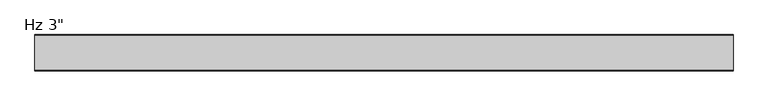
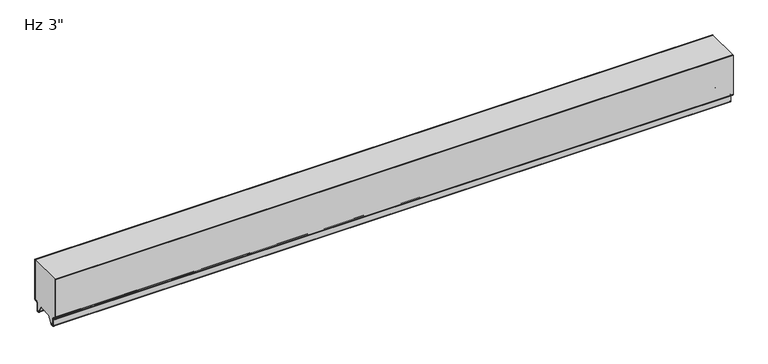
"""IFC4 building model written with IfcOpenShell, lengths in millimetres: plate geometry."""

from ifc_helpers import new_model, si_unit, frame, origin, place, context, project, spatial, polyline, circle_curve, source, transform, mapped, element, save
from ifc_brep_helpers import plane_surface, cylinder_surface, revolved_surface, advanced_brep


def plate_f03471cd(model_context):
    return source(origin(), model_context, "Body", "AdvancedBrep", [
        advanced_brep(
        [(-730.0, -2.9776189, 3.8501063), (-730.0, -1.0007088, 5.8270163), (-730.0, -1.0007088, 94.95), (-730.0, 0.0, 94.95), (-730.0, 0.0, 5.8272211), (-730.0, -2.977286, 2.8499526), (-730.0, -5.2691698, 2.8499526), (-730.0, -8.2464384, -0.1273159), (-730.0, -8.2464384, -15.7237419), (-730.0, -9.8343149, -17.3116185), (-730.0, -12.9058636, -17.3116185), (-730.0, -14.4937401, -15.7237419), (-730.0, -14.4937401, -13.3687064), (-730.0, -13.4937365, -13.3687064), (-730.0, -13.4937365, -15.7237374), (-730.0, -12.9058654, -16.3116086), (-730.0, -9.834334, -16.3116086), (-730.0, -9.2464768, -15.7237514), (-730.0, -9.2464768, -0.1272391), (-730.0, -5.2691315, 3.8501063), (730.0, -2.9776189, 3.8501063), (730.0, -5.2691315, 3.8501063), (730.0, -9.2464768, -0.1272391), (730.0, -9.2464768, -15.7237514), (730.0, -9.834334, -16.3116086), (730.0, -12.9058654, -16.3116086), (730.0, -13.4937365, -15.7237374), (730.0, -13.4937365, -13.3687064), (730.0, -14.4937401, -13.3687064), (730.0, -14.4937401, -15.7237419), (730.0, -12.9058636, -17.3116185), (730.0, -9.8343149, -17.3116185), (730.0, -8.2464384, -15.7237419), (730.0, -8.2464384, -0.1273159), (730.0, -5.2691698, 2.8499526), (730.0, -2.977286, 2.8499526), (730.0, -1.75e-05, 5.8272211), (730.0, 0.0, 94.95), (730.0, -1.0007088, 94.95), (730.0, -1.0007088, 5.8270163)],
        [
            (0, 1, circle_curve(frame((-730.0, -2.9776189, 5.8270163), z_axis=(1.0, 0.0, 0.0), x_axis=(0.0, 1.0, 0.0)), 1.9769101)),
            (1, 2),
            (2, 3),
            (3, 4),
            (4, 5, circle_curve(frame((-730.0, -2.977286, 5.8272211), z_axis=(-1.0, 0.0, 0.0), x_axis=(0.0, 1.0, 0.0)), 2.9772685)),
            (5, 6),
            (6, 7, circle_curve(frame((-730.0, -5.2691698, -0.1273159), z_axis=(1.0, 0.0, 0.0), x_axis=(0.0, 1.0, 0.0)), 2.9772685)),
            (7, 8),
            (8, 9, circle_curve(frame((-730.0, -9.8343149, -15.7237419), z_axis=(-1.0, 0.0, 0.0), x_axis=(0.0, 1.0, 0.0)), 1.5878765)),
            (9, 10),
            (10, 11, circle_curve(frame((-730.0, -12.9058636, -15.7237419), z_axis=(-1.0, 0.0, 0.0), x_axis=(0.0, 1.0, 0.0)), 1.5878765)),
            (11, 12),
            (12, 13),
            (13, 14),
            (14, 15, circle_curve(frame((-730.0, -12.9058654, -15.7237374), z_axis=(1.0, 0.0, 0.0), x_axis=(0.0, 1.0, 0.0)), 0.5878711)),
            (15, 16),
            (16, 17, circle_curve(frame((-730.0, -9.834334, -15.7237514), z_axis=(1.0, 0.0, 0.0), x_axis=(0.0, 1.0, 0.0)), 0.5878572)),
            (17, 18),
            (18, 19, circle_curve(frame((-730.0, -5.2691315, -0.1272391), z_axis=(-1.0, 0.0, 0.0), x_axis=(0.0, 1.0, 0.0)), 3.9773454)),
            (19, 0),
            (20, 21),
            (21, 22, circle_curve(frame((730.0, -5.2691315, -0.1272391), z_axis=(1.0, 0.0, 0.0), x_axis=(0.0, 1.0, 0.0)), 3.9773454)),
            (22, 23),
            (23, 24, circle_curve(frame((730.0, -9.834334, -15.7237514), z_axis=(-1.0, 0.0, 0.0), x_axis=(0.0, 1.0, 0.0)), 0.5878572)),
            (24, 25),
            (25, 26, circle_curve(frame((730.0, -12.9058654, -15.7237374), z_axis=(-1.0, 0.0, 0.0), x_axis=(0.0, 1.0, 0.0)), 0.5878711)),
            (26, 27),
            (27, 28),
            (28, 29),
            (29, 30, circle_curve(frame((730.0, -12.9058636, -15.7237419), z_axis=(1.0, 0.0, 0.0), x_axis=(0.0, 1.0, 0.0)), 1.5878765)),
            (30, 31),
            (31, 32, circle_curve(frame((730.0, -9.8343149, -15.7237419), z_axis=(1.0, 0.0, 0.0), x_axis=(0.0, 1.0, 0.0)), 1.5878765)),
            (32, 33),
            (33, 34, circle_curve(frame((730.0, -5.2691698, -0.1273159), z_axis=(-1.0, 0.0, 0.0), x_axis=(0.0, 1.0, 0.0)), 2.9772685)),
            (34, 35),
            (35, 36, circle_curve(frame((730.0, -2.977286, 5.8272211), z_axis=(1.0, 0.0, 0.0), x_axis=(0.0, 1.0, 0.0)), 2.9772685)),
            (36, 37),
            (37, 38),
            (38, 39),
            (39, 20, circle_curve(frame((730.0, -2.9776189, 5.8270163), z_axis=(-1.0, 0.0, 0.0), x_axis=(0.0, 1.0, 0.0)), 1.9769101)),
            (2, 38),
            (37, 3),
            (19, 21),
            (20, 0),
            (18, 22),
            (17, 23),
            (16, 24),
            (15, 25),
            (14, 26),
            (13, 27),
            (12, 28),
            (11, 29),
            (10, 30),
            (9, 31),
            (8, 32),
            (7, 33),
            (6, 34),
            (5, 35),
            (4, 36),
            (1, 39),
        ],
        [
            plane_surface(frame((-730.0, 0.0, 576.2625), z_axis=(-1.0, 0.0, 0.0), x_axis=(0.0, 1.0, 0.0))),
            plane_surface(frame((730.0, 0.0, 576.2625), z_axis=(1.0, 0.0, 0.0), x_axis=(0.0, 1.0, 0.0))),
            plane_surface(frame((730.0, 10.0, 94.95), z_axis=(0.0, 0.0, 1.0), x_axis=(-1.0, 0.0, 0.0))),
            plane_surface(frame((-730.0, -2.9776189, 3.8501063), z_axis=(0.0, 0.0, 1.0), x_axis=(1.0, 0.0, 0.0))),
            cylinder_surface(frame((-730.0, -5.2691315, -0.1272391), z_axis=(-1.0, 0.0, 0.0), x_axis=(0.0, 1.0, 0.0)), 3.9773454),
            plane_surface(frame((-730.0, -9.2464768, -0.1272391), z_axis=(0.0, -1.0, 0.0), x_axis=(1.0, 0.0, 0.0))),
            revolved_surface(polyline([(730.0, -9.2464768, -15.7237514), (-730.0, -9.2464768, -15.7237514)]), (-730.0, -9.834334, -15.7237514), (1.0, 0.0, 0.0)),
            plane_surface(frame((-730.0, -9.834334, -16.3116086), z_axis=(0.0, 0.0, 1.0), x_axis=(1.0, 0.0, 0.0))),
            revolved_surface(polyline([(730.0, -12.3179943, -15.7237374), (-730.0, -12.3179943, -15.7237374)]), (-730.0, -12.9058654, -15.7237374), (1.0, 0.0, 0.0)),
            plane_surface(frame((-730.0, -13.4937365, -15.7237374), z_axis=(0.0, 1.0, 0.0), x_axis=(1.0, 0.0, 0.0))),
            plane_surface(frame((-730.0, -13.4937365, -13.3687064), z_axis=(0.0, 0.0, 1.0), x_axis=(1.0, 0.0, 0.0))),
            plane_surface(frame((-730.0, -14.4937401, -13.3687064), z_axis=(0.0, -1.0, 0.0), x_axis=(1.0, 0.0, 0.0))),
            cylinder_surface(frame((-730.0, -12.9058636, -15.7237419), z_axis=(-1.0, 0.0, 0.0), x_axis=(0.0, 1.0, 0.0)), 1.5878765),
            plane_surface(frame((-730.0, -12.9058636, -17.3116185), z_axis=(0.0, 0.0, -1.0), x_axis=(1.0, 0.0, 0.0))),
            cylinder_surface(frame((-730.0, -9.8343149, -15.7237419), z_axis=(-1.0, 0.0, 0.0), x_axis=(0.0, 1.0, 0.0)), 1.5878765),
            plane_surface(frame((-730.0, -8.2464384, -15.7237419), z_axis=(0.0, 1.0, 0.0), x_axis=(1.0, 0.0, 0.0))),
            revolved_surface(polyline([(730.0, -2.2919013, -0.1273159), (-730.0, -2.2919013, -0.1273159)]), (-730.0, -5.2691698, -0.1273159), (1.0, 0.0, 0.0)),
            plane_surface(frame((-730.0, -5.2691698, 2.8499526), z_axis=(0.0, 0.0, -1.0), x_axis=(1.0, 0.0, 0.0))),
            cylinder_surface(frame((-730.0, -2.977286, 5.8272211), z_axis=(-1.0, 0.0, 0.0), x_axis=(0.0, 1.0, 0.0)), 2.9772685),
            plane_surface(frame((-730.0, 0.0, 5.8272211), z_axis=(0.0, 1.0, 0.0), x_axis=(1.0, 0.0, 0.0))),
            plane_surface(frame((-730.0, -1.0007088, 1150.812837), z_axis=(0.0, -1.0, 0.0), x_axis=(1.0, 0.0, 0.0))),
            revolved_surface(polyline([(730.0, -1.0007088, 5.8270163), (-730.0, -1.0007088, 5.8270163)]), (-730.0, -2.9776189, 5.8270163), (1.0, 0.0, 0.0)),
        ],
        [
            (0, [[1, 2, 3, 4, 5, 6, 7, 8, 9, 10, 11, 12, 13, 14, 15, 16, 17, 18, 19, 20]]),
            (1, [[21, 22, 23, 24, 25, 26, 27, 28, 29, 30, 31, 32, 33, 34, 35, 36, 37, 38, 39, 40]]),
            (2, [[41, -38, 42, -3]]),
            (3, [[43, -21, 44, -20]]),
            (4, [[45, -22, -43, -19]]),
            (5, [[46, -23, -45, -18]]),
            (6, [[47, -24, -46, -17]]),
            (7, [[48, -25, -47, -16]]),
            (8, [[49, -26, -48, -15]]),
            (9, [[50, -27, -49, -14]]),
            (10, [[51, -28, -50, -13]]),
            (11, [[52, -29, -51, -12]]),
            (12, [[53, -30, -52, -11]]),
            (13, [[54, -31, -53, -10]]),
            (14, [[55, -32, -54, -9]]),
            (15, [[56, -33, -55, -8]]),
            (16, [[57, -34, -56, -7]]),
            (17, [[58, -35, -57, -6]]),
            (18, [[59, -36, -58, -5]]),
            (19, [[-4, -42, -37, -59]]),
            (20, [[-39, -41, -2, 60]]),
            (21, [[-44, -40, -60, -1]]),
        ],
    ),
        advanced_brep(
        [(-730.0, -73.2223811, 3.8501063), (-730.0, -70.9308685, 3.8501063), (-730.0, -66.9535232, -0.1272391), (-730.0, -66.9535232, -15.7237514), (-730.0, -66.365666, -16.3116086), (-730.0, -63.2941346, -16.3116086), (-730.0, -62.7062635, -15.7237374), (-730.0, -62.7062635, -13.3687064), (-730.0, -61.7062599, -13.3687064), (-730.0, -61.7062599, -15.7237419), (-730.0, -63.2941364, -17.3116185), (-730.0, -66.3656851, -17.3116185), (-730.0, -67.9535616, -15.7237419), (-730.0, -67.9535616, -0.1273159), (-730.0, -70.9308302, 2.8499526), (-730.0, -73.222714, 2.8499526), (-730.0, -76.1999825, 5.8272211), (-730.0, -76.2, 94.95), (-730.0, -75.1992912, 94.95), (-730.0, -75.1992912, 5.8270163), (730.0, -73.2223811, 3.8501063), (730.0, -75.1992912, 5.8270163), (730.0, -75.1992912, 94.95), (730.0, -76.2, 94.95), (730.0, -76.2, 5.8272211), (730.0, -73.222714, 2.8499526), (730.0, -70.9308302, 2.8499526), (730.0, -67.9535616, -0.1273159), (730.0, -67.9535616, -15.7237419), (730.0, -66.3656851, -17.3116185), (730.0, -63.2941364, -17.3116185), (730.0, -61.7062599, -15.7237419), (730.0, -61.7062599, -13.3687064), (730.0, -62.7062635, -13.3687064), (730.0, -62.7062635, -15.7237374), (730.0, -63.2941346, -16.3116086), (730.0, -66.365666, -16.3116086), (730.0, -66.9535232, -15.7237514), (730.0, -66.9535232, -0.1272391), (730.0, -70.9308685, 3.8501063)],
        [
            (0, 1),
            (1, 2, circle_curve(frame((-730.0, -70.9308685, -0.1272391), z_axis=(-1.0, 0.0, 0.0), x_axis=(0.0, 0.0, -1.0)), 3.9773454)),
            (2, 3),
            (3, 4, circle_curve(frame((-730.0, -66.365666, -15.7237514), z_axis=(1.0, 0.0, 0.0), x_axis=(0.0, 0.0, -1.0)), 0.5878572)),
            (4, 5),
            (5, 6, circle_curve(frame((-730.0, -63.2941346, -15.7237374), z_axis=(1.0, 0.0, 0.0), x_axis=(0.0, 0.0, -1.0)), 0.5878711)),
            (6, 7),
            (7, 8),
            (8, 9),
            (9, 10, circle_curve(frame((-730.0, -63.2941364, -15.7237419), z_axis=(-1.0, 0.0, 0.0), x_axis=(0.0, 0.0, -1.0)), 1.5878765)),
            (10, 11),
            (11, 12, circle_curve(frame((-730.0, -66.3656851, -15.7237419), z_axis=(-1.0, 0.0, 0.0), x_axis=(0.0, 0.0, -1.0)), 1.5878765)),
            (12, 13),
            (13, 14, circle_curve(frame((-730.0, -70.9308302, -0.1273159), z_axis=(1.0, 0.0, 0.0), x_axis=(0.0, 0.0, -1.0)), 2.9772685)),
            (14, 15),
            (15, 16, circle_curve(frame((-730.0, -73.222714, 5.8272211), z_axis=(-1.0, 0.0, 0.0), x_axis=(0.0, 0.0, -1.0)), 2.9772685)),
            (16, 17),
            (17, 18),
            (18, 19),
            (19, 0, circle_curve(frame((-730.0, -73.2223811, 5.8270163), z_axis=(1.0, 0.0, 0.0), x_axis=(0.0, 0.0, -1.0)), 1.9769101)),
            (20, 21, circle_curve(frame((730.0, -73.2223811, 5.8270163), z_axis=(-1.0, 0.0, 0.0), x_axis=(0.0, 0.0, -1.0)), 1.9769101)),
            (21, 22),
            (22, 23),
            (23, 24),
            (24, 25, circle_curve(frame((730.0, -73.222714, 5.8272211), z_axis=(1.0, 0.0, 0.0), x_axis=(0.0, 0.0, -1.0)), 2.9772685)),
            (25, 26),
            (26, 27, circle_curve(frame((730.0, -70.9308302, -0.1273159), z_axis=(-1.0, 0.0, 0.0), x_axis=(0.0, 0.0, -1.0)), 2.9772685)),
            (27, 28),
            (28, 29, circle_curve(frame((730.0, -66.3656851, -15.7237419), z_axis=(1.0, 0.0, 0.0), x_axis=(0.0, 0.0, -1.0)), 1.5878765)),
            (29, 30),
            (30, 31, circle_curve(frame((730.0, -63.2941364, -15.7237419), z_axis=(1.0, 0.0, 0.0), x_axis=(0.0, 0.0, -1.0)), 1.5878765)),
            (31, 32),
            (32, 33),
            (33, 34),
            (34, 35, circle_curve(frame((730.0, -63.2941346, -15.7237374), z_axis=(-1.0, 0.0, 0.0), x_axis=(0.0, 0.0, -1.0)), 0.5878711)),
            (35, 36),
            (36, 37, circle_curve(frame((730.0, -66.365666, -15.7237514), z_axis=(-1.0, 0.0, 0.0), x_axis=(0.0, 0.0, -1.0)), 0.5878572)),
            (37, 38),
            (38, 39, circle_curve(frame((730.0, -70.9308685, -0.1272391), z_axis=(1.0, 0.0, 0.0), x_axis=(0.0, 0.0, -1.0)), 3.9773454)),
            (39, 20),
            (17, 23),
            (22, 18),
            (19, 21),
            (20, 0),
            (16, 24),
            (15, 25),
            (14, 26),
            (13, 27),
            (12, 28),
            (11, 29),
            (10, 30),
            (9, 31),
            (8, 32),
            (7, 33),
            (6, 34),
            (5, 35),
            (4, 36),
            (3, 37),
            (2, 38),
            (1, 39),
        ],
        [
            plane_surface(frame((-730.0, -76.2, 576.2625), z_axis=(-1.0, 0.0, 0.0), x_axis=(0.0, -1.0, 0.0))),
            plane_surface(frame((730.0, -76.2, 576.2625), z_axis=(1.0, 0.0, 0.0), x_axis=(0.0, -1.0, 0.0))),
            plane_surface(frame((730.0, 10.0, 94.95), z_axis=(0.0, 0.0, 1.0), x_axis=(-1.0, 0.0, 0.0))),
            revolved_surface(polyline([(730.0, -73.2223811, 3.8501062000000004), (-730.0, -73.2223811, 3.8501062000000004)]), (-730.0, -73.2223811, 5.8270163), (1.0, 0.0, 0.0)),
            plane_surface(frame((-730.0, -75.1992912, 5.8270163), z_axis=(0.0, 1.0, 0.0), x_axis=(1.0, 0.0, 0.0))),
            plane_surface(frame((-730.0, -76.2, 1150.8100652), z_axis=(0.0, -1.0, 0.0), x_axis=(1.0, 0.0, 0.0))),
            cylinder_surface(frame((-730.0, -73.222714, 5.8272211), z_axis=(-1.0, 0.0, 0.0), x_axis=(0.0, 0.0, -1.0)), 2.9772685),
            plane_surface(frame((-730.0, -73.222714, 2.8499526), z_axis=(0.0, 0.0, -1.0), x_axis=(1.0, 0.0, 0.0))),
            revolved_surface(polyline([(730.0, -70.9308302, -3.1045844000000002), (-730.0, -70.9308302, -3.1045844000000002)]), (-730.0, -70.9308302, -0.1273159), (1.0, 0.0, 0.0)),
            plane_surface(frame((-730.0, -67.9535616, -0.1273159), z_axis=(0.0, -1.0, 0.0), x_axis=(1.0, 0.0, 0.0))),
            cylinder_surface(frame((-730.0, -66.3656851, -15.7237419), z_axis=(-1.0, 0.0, 0.0), x_axis=(0.0, 0.0, -1.0)), 1.5878765),
            plane_surface(frame((-730.0, -66.3656851, -17.3116185), z_axis=(0.0, 0.0, -1.0), x_axis=(1.0, 0.0, 0.0))),
            cylinder_surface(frame((-730.0, -63.2941364, -15.7237419), z_axis=(-1.0, 0.0, 0.0), x_axis=(0.0, 0.0, -1.0)), 1.5878765),
            plane_surface(frame((-730.0, -61.7062599, -15.7237419), z_axis=(0.0, 1.0, 0.0), x_axis=(1.0, 0.0, 0.0))),
            plane_surface(frame((-730.0, -61.7062599, -13.3687064), z_axis=(0.0, 0.0, 1.0), x_axis=(1.0, 0.0, 0.0))),
            plane_surface(frame((-730.0, -62.7062635, -13.3687064), z_axis=(0.0, -1.0, 0.0), x_axis=(1.0, 0.0, 0.0))),
            revolved_surface(polyline([(730.0, -63.2941346, -16.3116085), (-730.0, -63.2941346, -16.3116085)]), (-730.0, -63.2941346, -15.7237374), (1.0, 0.0, 0.0)),
            plane_surface(frame((-730.0, -63.2941346, -16.3116086), z_axis=(0.0, 0.0, 1.0), x_axis=(1.0, 0.0, 0.0))),
            revolved_surface(polyline([(730.0, -66.365666, -16.3116086), (-730.0, -66.365666, -16.3116086)]), (-730.0, -66.365666, -15.7237514), (1.0, 0.0, 0.0)),
            plane_surface(frame((-730.0, -66.9535232, -15.7237514), z_axis=(0.0, 1.0, 0.0), x_axis=(1.0, 0.0, 0.0))),
            cylinder_surface(frame((-730.0, -70.9308685, -0.1272391), z_axis=(-1.0, 0.0, 0.0), x_axis=(0.0, 0.0, -1.0)), 3.9773454),
            plane_surface(frame((-730.0, -70.9308685, 3.8501063), z_axis=(0.0, 0.0, 1.0), x_axis=(1.0, 0.0, 0.0))),
        ],
        [
            (0, [[1, 2, 3, 4, 5, 6, 7, 8, 9, 10, 11, 12, 13, 14, 15, 16, 17, 18, 19, 20]]),
            (1, [[21, 22, 23, 24, 25, 26, 27, 28, 29, 30, 31, 32, 33, 34, 35, 36, 37, 38, 39, 40]]),
            (2, [[41, -23, 42, -18]]),
            (3, [[43, -21, 44, -20]]),
            (4, [[-19, -42, -22, -43]]),
            (5, [[-24, -41, -17, 45]]),
            (6, [[46, -25, -45, -16]]),
            (7, [[47, -26, -46, -15]]),
            (8, [[48, -27, -47, -14]]),
            (9, [[49, -28, -48, -13]]),
            (10, [[50, -29, -49, -12]]),
            (11, [[51, -30, -50, -11]]),
            (12, [[52, -31, -51, -10]]),
            (13, [[53, -32, -52, -9]]),
            (14, [[54, -33, -53, -8]]),
            (15, [[55, -34, -54, -7]]),
            (16, [[56, -35, -55, -6]]),
            (17, [[57, -36, -56, -5]]),
            (18, [[58, -37, -57, -4]]),
            (19, [[59, -38, -58, -3]]),
            (20, [[60, -39, -59, -2]]),
            (21, [[-44, -40, -60, -1]]),
        ],
    ),
        advanced_brep(
        [(-730.0, -73.2227194, 3.8499499), (-730.0, -75.1999935, 5.8272239), (-730.0, -75.2, 94.95), (-730.0, -1.0, 94.95), (-730.0, -1.0, 5.8272239), (-730.0, -2.9772806, 3.8499499), (-730.0, -5.2691705, 3.8499499), (-730.0, -9.2464377, -0.1273173), (-730.0, -9.2464377, -15.7237417), (-730.0, -9.8343146, -16.3116186), (-730.0, -12.9058635, -16.3116186), (-730.0, -13.4937402, -15.723742), (-730.0, -13.4937402, -13.3687064), (-730.0, -14.4937402, -13.3687064), (-730.0, -14.4937402, -15.6582851), (-730.0, -23.7509135, 0.0), (-730.0, -52.4490865, 0.0), (-730.0, -61.7062598, -15.6582851), (-730.0, -61.7062598, -13.3687064), (-730.0, -62.7062598, -13.3687064), (-730.0, -62.7062598, -15.723742), (-730.0, -63.2941365, -16.3116186), (-730.0, -66.3656854, -16.3116186), (-730.0, -66.9535623, -15.7237417), (-730.0, -66.9535623, -0.1273173), (-730.0, -70.9308295, 3.8499499), (730.0, -73.2227194, 3.8499499), (730.0, -70.9308295, 3.8499499), (730.0, -66.9535623, -0.1273173), (730.0, -66.9535623, -15.7237417), (730.0, -66.3656854, -16.3116186), (730.0, -63.2941365, -16.3116186), (730.0, -62.7062598, -15.723742), (730.0, -62.7062598, -13.3687064), (730.0, -61.7062598, -13.3687064), (730.0, -61.7062598, -15.6582851), (730.0, -52.4490865, 0.0), (730.0, -23.7509179, 0.0), (730.0, -14.4937402, -15.6582851), (730.0, -14.4937402, -13.3687064), (730.0, -13.4937402, -13.3687064), (730.0, -13.4937402, -15.723742), (730.0, -12.9058635, -16.3116186), (730.0, -9.8343146, -16.3116186), (730.0, -9.2464377, -15.7237417), (730.0, -9.2464377, -0.1273173), (730.0, -5.2691705, 3.8499499), (730.0, -2.9772806, 3.8499499), (730.0, -1.0000065, 5.8272239), (730.0, -1.0, 94.95), (730.0, -75.2, 94.95), (730.0, -75.2, 5.8272239)],
        [
            (0, 1, circle_curve(frame((-730.0, -73.2227194, 5.8272239), z_axis=(-1.0, 0.0, 0.0), x_axis=(0.0, 0.0, -1.0)), 1.977274)),
            (1, 2),
            (2, 3),
            (3, 4),
            (4, 5, circle_curve(frame((-730.0, -2.9772806, 5.8272239), z_axis=(-1.0, 0.0, 0.0), x_axis=(0.0, 1.0, 0.0)), 1.977274)),
            (5, 6),
            (6, 7, circle_curve(frame((-730.0, -5.2691705, -0.1273173), z_axis=(1.0, 0.0, 0.0), x_axis=(0.0, 1.0, 0.0)), 3.9772671)),
            (7, 8),
            (8, 9, circle_curve(frame((-730.0, -9.8343146, -15.7237417), z_axis=(-1.0, 0.0, 0.0), x_axis=(0.0, 1.0, 0.0)), 0.5878769)),
            (9, 10),
            (10, 11, circle_curve(frame((-730.0, -12.9058635, -15.723742), z_axis=(-1.0, 0.0, 0.0), x_axis=(0.0, 1.0, 0.0)), 0.5878766)),
            (11, 12),
            (12, 13),
            (13, 14),
            (14, 15),
            (15, 16),
            (16, 17),
            (17, 18),
            (18, 19),
            (19, 20),
            (20, 21, circle_curve(frame((-730.0, -63.2941365, -15.723742), z_axis=(-1.0, 0.0, 0.0), x_axis=(0.0, 0.0, -1.0)), 0.5878766)),
            (21, 22),
            (22, 23, circle_curve(frame((-730.0, -66.3656854, -15.7237417), z_axis=(-1.0, 0.0, 0.0), x_axis=(0.0, 0.0, -1.0)), 0.5878769)),
            (23, 24),
            (24, 25, circle_curve(frame((-730.0, -70.9308295, -0.1273173), z_axis=(1.0, 0.0, 0.0), x_axis=(0.0, 0.0, -1.0)), 3.9772671)),
            (25, 0),
            (26, 27),
            (27, 28, circle_curve(frame((730.0, -70.9308295, -0.1273173), z_axis=(-1.0, 0.0, 0.0), x_axis=(0.0, 0.0, -1.0)), 3.9772671)),
            (28, 29),
            (29, 30, circle_curve(frame((730.0, -66.3656854, -15.7237417), z_axis=(1.0, 0.0, 0.0), x_axis=(0.0, 0.0, -1.0)), 0.5878769)),
            (30, 31),
            (31, 32, circle_curve(frame((730.0, -63.2941365, -15.723742), z_axis=(1.0, 0.0, 0.0), x_axis=(0.0, 0.0, -1.0)), 0.5878766)),
            (32, 33),
            (33, 34),
            (34, 35),
            (35, 36),
            (36, 37),
            (37, 38),
            (38, 39),
            (39, 40),
            (40, 41),
            (41, 42, circle_curve(frame((730.0, -12.9058635, -15.723742), z_axis=(1.0, 0.0, 0.0), x_axis=(0.0, 1.0, 0.0)), 0.5878766)),
            (42, 43),
            (43, 44, circle_curve(frame((730.0, -9.8343146, -15.7237417), z_axis=(1.0, 0.0, 0.0), x_axis=(0.0, 1.0, 0.0)), 0.5878769)),
            (44, 45),
            (45, 46, circle_curve(frame((730.0, -5.2691705, -0.1273173), z_axis=(-1.0, 0.0, 0.0), x_axis=(0.0, 1.0, 0.0)), 3.9772671)),
            (46, 47),
            (47, 48, circle_curve(frame((730.0, -2.9772806, 5.8272239), z_axis=(1.0, 0.0, 0.0), x_axis=(0.0, 1.0, 0.0)), 1.977274)),
            (48, 49),
            (49, 50),
            (50, 51),
            (51, 26, circle_curve(frame((730.0, -73.2227194, 5.8272239), z_axis=(1.0, 0.0, 0.0), x_axis=(0.0, 0.0, -1.0)), 1.977274)),
            (36, 16),
            (15, 37),
            (2, 50),
            (49, 3),
            (25, 27),
            (26, 0),
            (24, 28),
            (23, 29),
            (22, 30),
            (21, 31),
            (20, 32),
            (19, 33),
            (18, 34),
            (17, 35),
            (1, 51),
            (4, 48),
            (47, 5),
            (14, 38),
            (13, 39),
            (12, 40),
            (11, 41),
            (10, 42),
            (9, 43),
            (8, 44),
            (7, 45),
            (6, 46),
        ],
        [
            plane_surface(frame((-730.0, -75.2, 576.2625), z_axis=(-1.0, 0.0, 0.0), x_axis=(0.0, -1.0, 0.0))),
            plane_surface(frame((730.0, -75.2, 576.2625), z_axis=(1.0, 0.0, 0.0), x_axis=(0.0, -1.0, 0.0))),
            plane_surface(frame((-730.0, -52.4490865, 0.0), z_axis=(0.0, 0.0, -1.0), x_axis=(1.0, 0.0, 0.0))),
            plane_surface(frame((730.0, 10.0, 94.95), z_axis=(0.0, 0.0, 1.0), x_axis=(-1.0, 0.0, 0.0))),
            plane_surface(frame((-730.0, -73.2227194, 3.8499499), z_axis=(0.0, 0.0, -1.0), x_axis=(1.0, 0.0, 0.0))),
            revolved_surface(polyline([(730.0, -70.9308295, -4.1045844), (-730.0, -70.9308295, -4.1045844)]), (-730.0, -70.9308295, -0.1273173), (1.0, 0.0, 0.0)),
            plane_surface(frame((-730.0, -66.9535623, -0.1273173), z_axis=(0.0, -1.0, 0.0), x_axis=(1.0, 0.0, 0.0))),
            cylinder_surface(frame((-730.0, -66.3656854, -15.7237417), z_axis=(-1.0, 0.0, 0.0), x_axis=(0.0, 0.0, -1.0)), 0.5878769),
            plane_surface(frame((-730.0, -66.3656854, -16.3116186), z_axis=(0.0, 0.0, -1.0), x_axis=(1.0, 0.0, 0.0))),
            cylinder_surface(frame((-730.0, -63.2941365, -15.723742), z_axis=(-1.0, 0.0, 0.0), x_axis=(0.0, 0.0, -1.0)), 0.5878766),
            plane_surface(frame((-730.0, -62.7062598, -15.723742), z_axis=(0.0, 1.0, 0.0), x_axis=(1.0, 0.0, 0.0))),
            plane_surface(frame((-730.0, -62.7062598, -13.3687064), z_axis=(0.0, 0.0, -1.0), x_axis=(1.0, 0.0, 0.0))),
            plane_surface(frame((-730.0, -61.7062598, -13.3687064), z_axis=(0.0, -1.0, 0.0), x_axis=(1.0, 0.0, 0.0))),
            plane_surface(frame((-730.0, -61.7062598, -15.6582851), z_axis=(0.0, 0.8608169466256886, -0.5089147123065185), x_axis=(1.0, 0.0, 0.0))),
            plane_surface(frame((-730.0, -75.2, 1150.8100652), z_axis=(0.0, -1.0, 0.0), x_axis=(1.0, 0.0, 0.0))),
            cylinder_surface(frame((-730.0, -73.2227194, 5.8272239), z_axis=(-1.0, 0.0, 0.0), x_axis=(0.0, 0.0, -1.0)), 1.977274),
            cylinder_surface(frame((-730.0, -2.9772806, 5.8272239), z_axis=(-1.0, 0.0, 0.0), x_axis=(0.0, 1.0, 0.0)), 1.977274),
            plane_surface(frame((-730.0, -1.0, 5.8272239), z_axis=(0.0, 1.0, 0.0), x_axis=(1.0, 0.0, 0.0))),
            plane_surface(frame((-730.0, -23.7509135, 0.0), z_axis=(0.0, -0.8608169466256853, -0.5089147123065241), x_axis=(1.0, 0.0, 0.0))),
            plane_surface(frame((-730.0, -14.4937402, -15.6582851), z_axis=(0.0, 1.0, 0.0), x_axis=(1.0, 0.0, 0.0))),
            plane_surface(frame((-730.0, -14.4937402, -13.3687064), z_axis=(0.0, 0.0, -1.0), x_axis=(1.0, 0.0, 0.0))),
            plane_surface(frame((-730.0, -13.4937402, -13.3687064), z_axis=(0.0, -1.0, 0.0), x_axis=(1.0, 0.0, 0.0))),
            cylinder_surface(frame((-730.0, -12.9058635, -15.723742), z_axis=(-1.0, 0.0, 0.0), x_axis=(0.0, 1.0, 0.0)), 0.5878766),
            plane_surface(frame((-730.0, -12.9058635, -16.3116186), z_axis=(0.0, 0.0, -1.0), x_axis=(1.0, 0.0, 0.0))),
            cylinder_surface(frame((-730.0, -9.8343146, -15.7237417), z_axis=(-1.0, 0.0, 0.0), x_axis=(0.0, 1.0, 0.0)), 0.5878769),
            plane_surface(frame((-730.0, -9.2464377, -15.7237417), z_axis=(0.0, 1.0, 0.0), x_axis=(1.0, 0.0, 0.0))),
            revolved_surface(polyline([(730.0, -1.2919034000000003, -0.1273173), (-730.0, -1.2919034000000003, -0.1273173)]), (-730.0, -5.2691705, -0.1273173), (1.0, 0.0, 0.0)),
            plane_surface(frame((-730.0, -5.2691705, 3.8499499), z_axis=(0.0, 0.0, -1.0), x_axis=(1.0, 0.0, 0.0))),
        ],
        [
            (0, [[1, 2, 3, 4, 5, 6, 7, 8, 9, 10, 11, 12, 13, 14, 15, 16, 17, 18, 19, 20, 21, 22, 23, 24, 25, 26]]),
            (1, [[27, 28, 29, 30, 31, 32, 33, 34, 35, 36, 37, 38, 39, 40, 41, 42, 43, 44, 45, 46, 47, 48, 49, 50, 51, 52]]),
            (2, [[53, -16, 54, -37]]),
            (3, [[55, -50, 56, -3]]),
            (4, [[57, -27, 58, -26]]),
            (5, [[59, -28, -57, -25]]),
            (6, [[60, -29, -59, -24]]),
            (7, [[61, -30, -60, -23]]),
            (8, [[62, -31, -61, -22]]),
            (9, [[63, -32, -62, -21]]),
            (10, [[64, -33, -63, -20]]),
            (11, [[65, -34, -64, -19]]),
            (12, [[66, -35, -65, -18]]),
            (13, [[-53, -36, -66, -17]]),
            (14, [[-51, -55, -2, 67]]),
            (15, [[-58, -52, -67, -1]]),
            (16, [[68, -48, 69, -5]]),
            (17, [[-4, -56, -49, -68]]),
            (18, [[70, -38, -54, -15]]),
            (19, [[71, -39, -70, -14]]),
            (20, [[72, -40, -71, -13]]),
            (21, [[73, -41, -72, -12]]),
            (22, [[74, -42, -73, -11]]),
            (23, [[75, -43, -74, -10]]),
            (24, [[76, -44, -75, -9]]),
            (25, [[77, -45, -76, -8]]),
            (26, [[78, -46, -77, -7]]),
            (27, [[-69, -47, -78, -6]]),
        ],
    ),
    ])


if __name__ == "__main__":
    model = new_model("IFC4")
    model_context = context("Model", 3, world=origin())
    ifc_project = project(units=[si_unit("LENGTHUNIT", "METRE", prefix="MILLI")], contexts=[model_context])
    site = spatial("IfcSite", under=ifc_project)
    building = spatial("IfcBuilding", under=site)
    placement = place(None, origin())
    plate_shape = plate_f03471cd(model_context)
    element("IfcPlate", 1, ObjectType="KIP-SLI-FLI-R19-CP-Hz-FL_FL : Hz 3\"", at=placement, inside=building, context=model_context, shape_type="MappedRepresentation", body=[
        mapped(plate_shape, transform((0.0, 0.0, 0.0), x_axis=(1.0, 0.0, 0.0), y_axis=(0.0, 1.0, 0.0), z_axis=(0.0, 0.0, 1.0))),
    ])
    save(model, "model.ifc")
